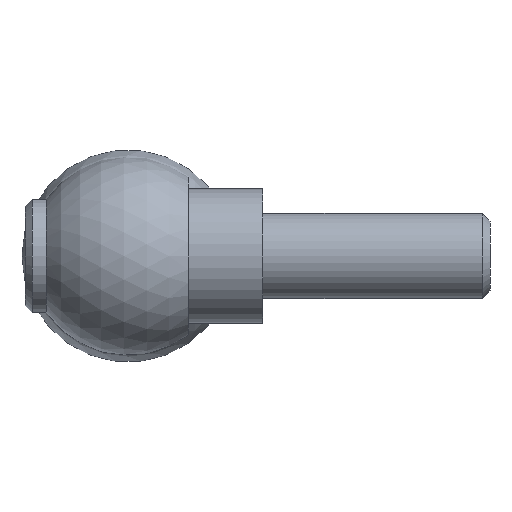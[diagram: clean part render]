
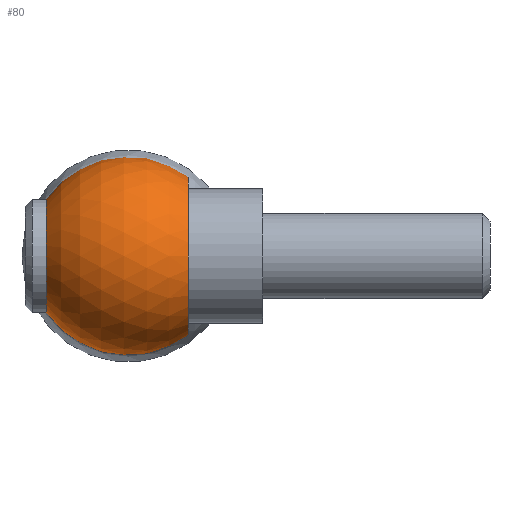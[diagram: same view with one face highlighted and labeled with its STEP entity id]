
A CAD part, left-side view. The second image highlights one B-rep face of the part: STEP entity #80.
In plain terms, the highlighted spherical face has radius 14 mm.
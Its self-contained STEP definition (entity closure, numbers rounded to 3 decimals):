
#80 = ADVANCED_FACE( '', ( #104, #105, #106 ), #107, .T. );
#104 = FACE_OUTER_BOUND( '', #142, .T. );
#105 = FACE_BOUND( '', #143, .T. );
#106 = FACE_OUTER_BOUND( '', #144, .T. );
#107 = SPHERICAL_SURFACE( '', #145, 14. );
#142 = EDGE_LOOP( '', ( #190 ) );
#143 = EDGE_LOOP( '', ( #191 ) );
#144 = EDGE_LOOP( '', ( #192 ) );
#145 = AXIS2_PLACEMENT_3D( '', #193, #194, #195 );
#190 = ORIENTED_EDGE( '', *, *, #235, .T. );
#191 = ORIENTED_EDGE( '', *, *, #236, .T. );
#192 = ORIENTED_EDGE( '', *, *, #234, .F. );
#193 = CARTESIAN_POINT( '', ( 0., 19., 0. ) );
#194 = DIRECTION( '', ( 0., -1., 0. ) );
#195 = DIRECTION( '', ( 1., 0., 0. ) );
#234 = EDGE_CURVE( '', #252, #252, #253, .T. );
#235 = EDGE_CURVE( '', #254, #254, #255, .T. );
#236 = EDGE_CURVE( '', #256, #256, #257, .T. );
#252 = VERTEX_POINT( '', #276 );
#253 = CIRCLE( '', #277, 11.124 );
#254 = VERTEX_POINT( '', #278 );
#255 = CIRCLE( '', #279, 7.984 );
#256 = VERTEX_POINT( '', #280 );
#257 = CIRCLE( '', #281, 6.5 );
#276 = CARTESIAN_POINT( '', ( 11.124, 10.5, 0. ) );
#277 = AXIS2_PLACEMENT_3D( '', #305, #306, #307 );
#278 = CARTESIAN_POINT( '', ( 7.984, 30.5, 0. ) );
#279 = AXIS2_PLACEMENT_3D( '', #308, #309, #310 );
#280 = CARTESIAN_POINT( '', ( 12.4, 19., 6.5 ) );
#281 = AXIS2_PLACEMENT_3D( '', #311, #312, #313 );
#305 = CARTESIAN_POINT( '', ( 0., 10.5, 0. ) );
#306 = DIRECTION( '', ( 0., -1., 0. ) );
#307 = DIRECTION( '', ( 1., 0., 0. ) );
#308 = CARTESIAN_POINT( '', ( 0., 30.5, 0. ) );
#309 = DIRECTION( '', ( 0., -1., 0. ) );
#310 = DIRECTION( '', ( 1., 0., 0. ) );
#311 = CARTESIAN_POINT( '', ( 12.4, 19., 0. ) );
#312 = DIRECTION( '', ( -1., 0., 0. ) );
#313 = DIRECTION( '', ( 0., 0., 1. ) );
